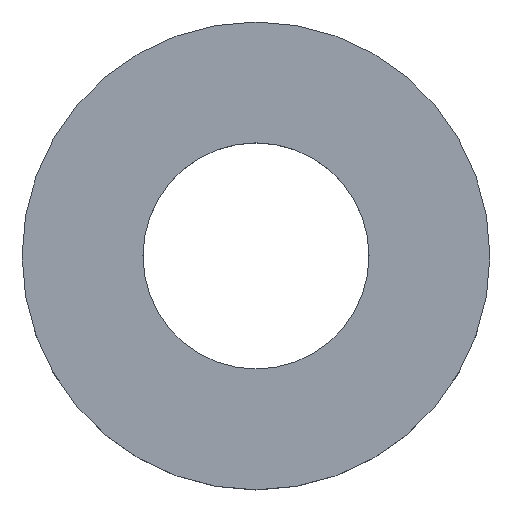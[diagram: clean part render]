
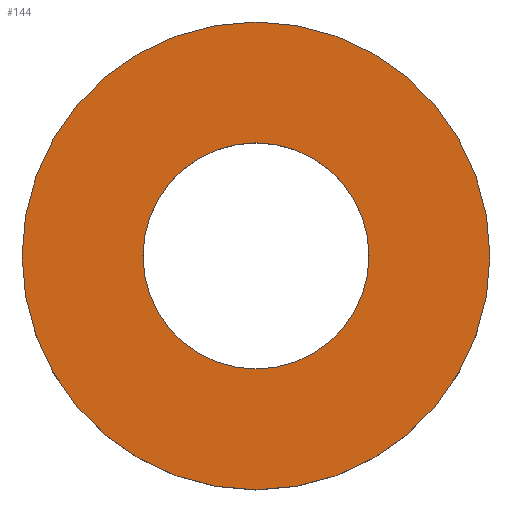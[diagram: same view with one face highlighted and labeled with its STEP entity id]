
A CAD part, top view. The second image highlights one B-rep face of the part: STEP entity #144.
In plain terms, the highlighted planar face has unit normal (0, 0, 1).
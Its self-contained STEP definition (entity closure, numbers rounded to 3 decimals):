
#24 = VERTEX_POINT('',#25);
#25 = CARTESIAN_POINT('',(3.,0.,1.));
#32 = CYLINDRICAL_SURFACE('',#33,3.);
#33 = AXIS2_PLACEMENT_3D('',#34,#35,#36);
#34 = CARTESIAN_POINT('',(0.,0.,0.));
#35 = DIRECTION('',(-0.,-0.,-1.));
#36 = DIRECTION('',(1.,0.,0.));
#51 = EDGE_CURVE('',#24,#24,#52,.T.);
#52 = SURFACE_CURVE('',#53,(#58,#65),.PCURVE_S1.);
#53 = CIRCLE('',#54,3.);
#54 = AXIS2_PLACEMENT_3D('',#55,#56,#57);
#55 = CARTESIAN_POINT('',(0.,0.,1.));
#56 = DIRECTION('',(0.,0.,1.));
#57 = DIRECTION('',(1.,0.,0.));
#58 = PCURVE('',#32,#59);
#59 = DEFINITIONAL_REPRESENTATION('',(#60),#64);
#60 = LINE('',#61,#62);
#61 = CARTESIAN_POINT('',(-0.,-1.));
#62 = VECTOR('',#63,1.);
#63 = DIRECTION('',(-1.,0.));
#64 = ( GEOMETRIC_REPRESENTATION_CONTEXT(2) 
PARAMETRIC_REPRESENTATION_CONTEXT() REPRESENTATION_CONTEXT('2D SPACE',''
  ) );
#65 = PCURVE('',#66,#71);
#66 = PLANE('',#67);
#67 = AXIS2_PLACEMENT_3D('',#68,#69,#70);
#68 = CARTESIAN_POINT('',(0.,0.,1.));
#69 = DIRECTION('',(0.,0.,1.));
#70 = DIRECTION('',(1.,0.,-0.));
#71 = DEFINITIONAL_REPRESENTATION('',(#72),#76);
#72 = CIRCLE('',#73,3.);
#73 = AXIS2_PLACEMENT_2D('',#74,#75);
#74 = CARTESIAN_POINT('',(0.,0.));
#75 = DIRECTION('',(1.,0.));
#76 = ( GEOMETRIC_REPRESENTATION_CONTEXT(2) 
PARAMETRIC_REPRESENTATION_CONTEXT() REPRESENTATION_CONTEXT('2D SPACE',''
  ) );
#133 = CYLINDRICAL_SURFACE('',#134,1.45);
#134 = AXIS2_PLACEMENT_3D('',#135,#136,#137);
#135 = CARTESIAN_POINT('',(0.,0.,-1.));
#136 = DIRECTION('',(-0.,-0.,-1.));
#137 = DIRECTION('',(1.,0.,0.));
#144 = ADVANCED_FACE('',(#145,#148),#66,.T.);
#145 = FACE_BOUND('',#146,.T.);
#146 = EDGE_LOOP('',(#147));
#147 = ORIENTED_EDGE('',*,*,#51,.T.);
#148 = FACE_BOUND('',#149,.T.);
#149 = EDGE_LOOP('',(#150));
#150 = ORIENTED_EDGE('',*,*,#151,.T.);
#151 = EDGE_CURVE('',#152,#152,#154,.T.);
#152 = VERTEX_POINT('',#153);
#153 = CARTESIAN_POINT('',(1.45,0.,1.));
#154 = SURFACE_CURVE('',#155,(#160,#171),.PCURVE_S1.);
#155 = CIRCLE('',#156,1.45);
#156 = AXIS2_PLACEMENT_3D('',#157,#158,#159);
#157 = CARTESIAN_POINT('',(0.,0.,1.));
#158 = DIRECTION('',(0.,0.,-1.));
#159 = DIRECTION('',(1.,0.,0.));
#160 = PCURVE('',#66,#161);
#161 = DEFINITIONAL_REPRESENTATION('',(#162),#170);
#162 = ( BOUNDED_CURVE() B_SPLINE_CURVE(2,(#163,#164,#165,#166,#167,#168
,#169),.UNSPECIFIED.,.T.,.F.) B_SPLINE_CURVE_WITH_KNOTS((1,2,2,2,2,1),(
    -2.094,0.,2.094,4.189,6.283,
8.378),.UNSPECIFIED.) CURVE() GEOMETRIC_REPRESENTATION_ITEM() 
RATIONAL_B_SPLINE_CURVE((1.,0.5,1.,0.5,1.,0.5,1.)) REPRESENTATION_ITEM(
  '') );
#163 = CARTESIAN_POINT('',(1.45,0.));
#164 = CARTESIAN_POINT('',(1.45,-2.511));
#165 = CARTESIAN_POINT('',(-0.725,-1.256));
#166 = CARTESIAN_POINT('',(-2.9,0.));
#167 = CARTESIAN_POINT('',(-0.725,1.256));
#168 = CARTESIAN_POINT('',(1.45,2.511));
#169 = CARTESIAN_POINT('',(1.45,0.));
#170 = ( GEOMETRIC_REPRESENTATION_CONTEXT(2) 
PARAMETRIC_REPRESENTATION_CONTEXT() REPRESENTATION_CONTEXT('2D SPACE',''
  ) );
#171 = PCURVE('',#133,#172);
#172 = DEFINITIONAL_REPRESENTATION('',(#173),#177);
#173 = LINE('',#174,#175);
#174 = CARTESIAN_POINT('',(-6.283,-2.));
#175 = VECTOR('',#176,1.);
#176 = DIRECTION('',(1.,-0.));
#177 = ( GEOMETRIC_REPRESENTATION_CONTEXT(2) 
PARAMETRIC_REPRESENTATION_CONTEXT() REPRESENTATION_CONTEXT('2D SPACE',''
  ) );
